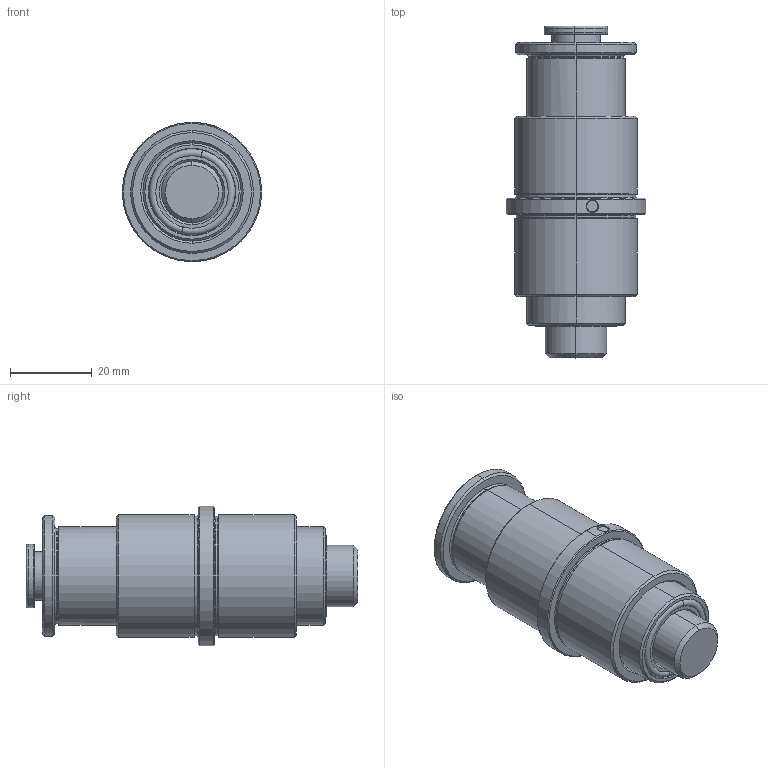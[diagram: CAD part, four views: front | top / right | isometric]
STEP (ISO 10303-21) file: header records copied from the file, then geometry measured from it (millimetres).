
FILE_DESCRIPTION (( 'STEP AP214' ), '1' );
FILE_NAME ('AE082430.STEP', '2018-10-11T07:11:36', ( '' ), ( '' ), 'SwSTEP 2.0', 'SolidWorks 2018', '' );
FILE_SCHEMA (( 'AUTOMOTIVE_DESIGN' ));
Length unit declared in the file: millimetre
Products named in the file (11): 9AE082430-1; AE082430; 1CASQPULS-8L_Pulsador_08; 1BOLAØ2,3; 9AE082430; 9AE052430-4; 9AE052430-2; Junta tórica; 9AE082430-3; DIN6325 ﾘ3X32; 1MUELLE08_Comp. 7,7
Assembly tree (17 placements, depth 3):
  AE082430
    1CASQPULS-8L_Pulsador_08
    1BOLAØ2,3  x8
    1MUELLE08_Comp. 7,7
    9AE082430
      9AE052430-2
      DIN6325 ﾘ3X32
      9AE052430-4
      9AE082430-3
      9AE082430-1
      Junta tórica
Bounding box: 34 x 81 x 34 mm (x, y, z)
Volume: 39188.5 mm3; surface area: 26343.6 mm2
Topology: 16 solids, 16 shells, 694 faces, 1787 edges, 1100 vertices
Faces by surface type: plane 189, cylinder 162, cone 148, bspline 102, torus 77, sphere 16
Entity records: 24425 total; most frequent: CARTESIAN_POINT 7964, ORIENTED_EDGE 3462, DIRECTION 3099, EDGE_CURVE 1731, AXIS2_PLACEMENT_3D 1237, VERTEX_POINT 1062, EDGE_LOOP 713, FACE_OUTER_BOUND 680
